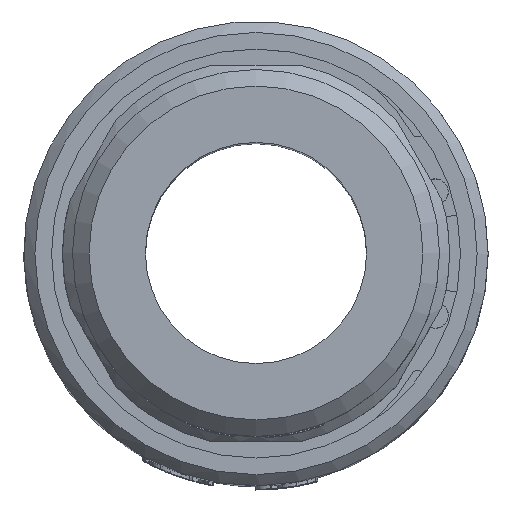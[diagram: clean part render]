
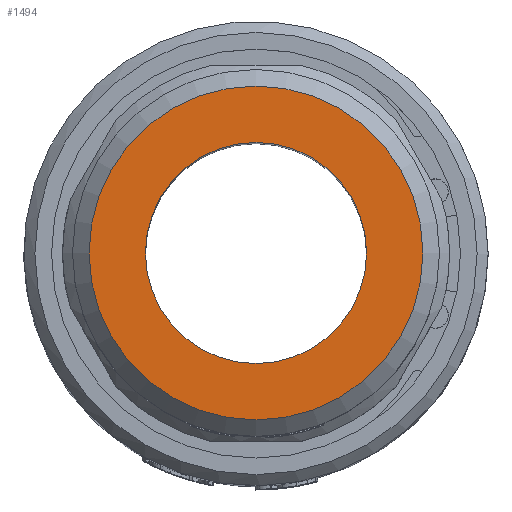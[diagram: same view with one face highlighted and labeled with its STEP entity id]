
A CAD part, top view. The second image highlights one B-rep face of the part: STEP entity #1494.
In plain terms, the highlighted planar face has unit normal (0, 0, 1).
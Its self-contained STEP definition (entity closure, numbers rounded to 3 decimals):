
#196=FACE_BOUND('',#3443,.T.);
#197=FACE_BOUND('',#3444,.T.);
#857=CIRCLE('',#15453,10.);
#865=CIRCLE('',#15469,15.1);
#1494=ADVANCED_FACE('',(#196,#197),#1977,.T.);
#1977=PLANE('',#15471);
#3443=EDGE_LOOP('',(#7644));
#3444=EDGE_LOOP('',(#7645));
#7644=ORIENTED_EDGE('',*,*,#12423,.T.);
#7645=ORIENTED_EDGE('',*,*,#12414,.T.);
#10351=VERTEX_POINT('',#29195);
#10359=VERTEX_POINT('',#29220);
#12414=EDGE_CURVE('',#10351,#10351,#857,.T.);
#12423=EDGE_CURVE('',#10359,#10359,#865,.T.);
#15453=AXIS2_PLACEMENT_3D('',#29194,#17041,#17042);
#15469=AXIS2_PLACEMENT_3D('',#29219,#17074,#17075);
#15471=AXIS2_PLACEMENT_3D('',#29222,#17078,#17079);
#17041=DIRECTION('',(0.,0.,-1.));
#17042=DIRECTION('',(1.,0.,0.));
#17074=DIRECTION('',(0.,0.,1.));
#17075=DIRECTION('',(1.,0.,0.));
#17078=DIRECTION('',(0.,0.,1.));
#17079=DIRECTION('',(-1.,0.,0.));
#29194=CARTESIAN_POINT('',(0.,0.,84.));
#29195=CARTESIAN_POINT('',(10.,0.,84.));
#29219=CARTESIAN_POINT('',(0.,0.,84.));
#29220=CARTESIAN_POINT('',(15.1,0.,84.));
#29222=CARTESIAN_POINT('',(0.,0.,84.));
